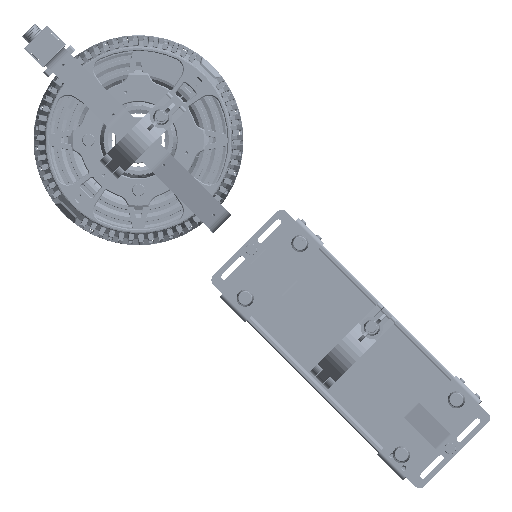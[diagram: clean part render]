
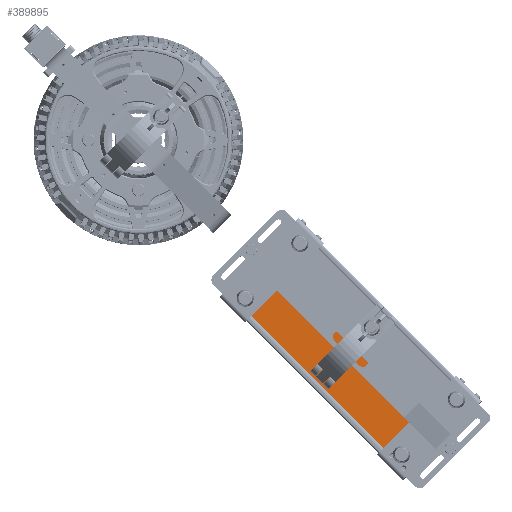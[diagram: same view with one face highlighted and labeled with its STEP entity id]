
A CAD part, top view. The second image highlights one B-rep face of the part: STEP entity #389895.
In plain terms, the highlighted planar face has unit normal (0, 0, 1) as drawn and (0, 0, -1) by its records, which use the part's own axes.
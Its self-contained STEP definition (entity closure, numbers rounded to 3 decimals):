
#11271 = LINE ( 'NONE', #267944, #128410 ) ;
#21890 = VERTEX_POINT ( 'NONE', #198599 ) ;
#26099 = PLANE ( 'NONE',  #326345 ) ;
#29929 = VERTEX_POINT ( 'NONE', #215116 ) ;
#112853 = VERTEX_POINT ( 'NONE', #391415 ) ;
#113031 = VECTOR ( 'NONE', #288282, 1000. ) ;
#113898 = DIRECTION ( 'NONE',  ( 1., 0., 0. ) ) ;
#128410 = VECTOR ( 'NONE', #359680, 1000. ) ;
#135859 = ORIENTED_EDGE ( 'NONE', *, *, #280185, .T. ) ;
#140785 = DIRECTION ( 'NONE',  ( -1., 0., 0. ) ) ;
#149948 = ORIENTED_EDGE ( 'NONE', *, *, #326962, .T. ) ;
#151355 = CARTESIAN_POINT ( 'NONE',  ( -57.5, 117.6, -20.9 ) ) ;
#161124 = CARTESIAN_POINT ( 'NONE',  ( -57.5, -117.6, -20.9 ) ) ;
#188490 = EDGE_CURVE ( 'NONE', #112853, #21890, #326541, .T. ) ;
#191306 = VERTEX_POINT ( 'NONE', #281710 ) ;
#198599 = CARTESIAN_POINT ( 'NONE',  ( 3.5, 117.6, -20.9 ) ) ;
#215116 = CARTESIAN_POINT ( 'NONE',  ( -54.5, 117.6, -20.9 ) ) ;
#224073 = VECTOR ( 'NONE', #324509, 1000. ) ;
#245368 = LINE ( 'NONE', #161124, #113031 ) ;
#267944 = CARTESIAN_POINT ( 'NONE',  ( -54.5, 117.6, -20.9 ) ) ;
#280185 = EDGE_CURVE ( 'NONE', #112853, #191306, #245368, .T. ) ;
#281710 = CARTESIAN_POINT ( 'NONE',  ( -54.5, -117.6, -20.9 ) ) ;
#288282 = DIRECTION ( 'NONE',  ( -1., 0., 0. ) ) ;
#288543 = EDGE_CURVE ( 'NONE', #21890, #29929, #401364, .T. ) ;
#313998 = FACE_OUTER_BOUND ( 'NONE', #337407, .T. ) ;
#320680 = ORIENTED_EDGE ( 'NONE', *, *, #188490, .F. ) ;
#324509 = DIRECTION ( 'NONE',  ( 0., 1., 0. ) ) ;
#326345 = AXIS2_PLACEMENT_3D ( 'NONE', #151355, #399578, #113898 ) ;
#326541 = LINE ( 'NONE', #385041, #224073 ) ;
#326962 = EDGE_CURVE ( 'NONE', #191306, #29929, #11271, .T. ) ;
#337407 = EDGE_LOOP ( 'NONE', ( #135859, #149948, #400780, #320680 ) ) ;
#359680 = DIRECTION ( 'NONE',  ( 0., 1., 0. ) ) ;
#372213 = CARTESIAN_POINT ( 'NONE',  ( -57.5, 117.6, -20.9 ) ) ;
#385041 = CARTESIAN_POINT ( 'NONE',  ( 3.5, -119.836, -20.9 ) ) ;
#389895 = ADVANCED_FACE ( 'NONE', ( #313998 ), #26099, .F. ) ;
#391415 = CARTESIAN_POINT ( 'NONE',  ( 3.5, -117.6, -20.9 ) ) ;
#399578 = DIRECTION ( 'NONE',  ( 0., 0., 1. ) ) ;
#400780 = ORIENTED_EDGE ( 'NONE', *, *, #288543, .F. ) ;
#401364 = LINE ( 'NONE', #372213, #402579 ) ;
#402579 = VECTOR ( 'NONE', #140785, 1000. ) ;
